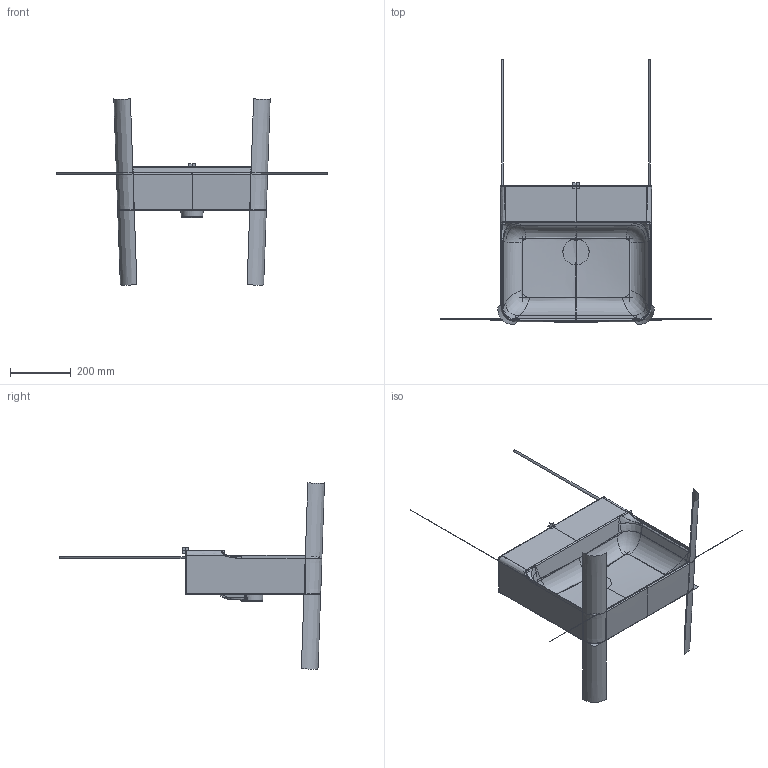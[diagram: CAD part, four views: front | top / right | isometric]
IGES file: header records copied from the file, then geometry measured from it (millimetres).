
Start section: JAMA-IS VERSION  1.0  PTC IGES file: t3690_mk1_3dpl.igs
Global section: file name: t3690_mk1_3dpl.igs; native system: Creo Parametric by PTC Inc.; preprocessor: 2016130; author: RibentsovV; organization: Unknown; date: 20190619.154624; units: millimetre
Bounding box: 894.68 x 875.51 x 615.31 mm (x, y, z)
Volume: 16807642.5 mm3; surface area: 3348316 mm2
Topology: 1 solids, 4 shells, 220 faces, 960 edges, 1116 vertices
Faces by surface type: bspline 220
